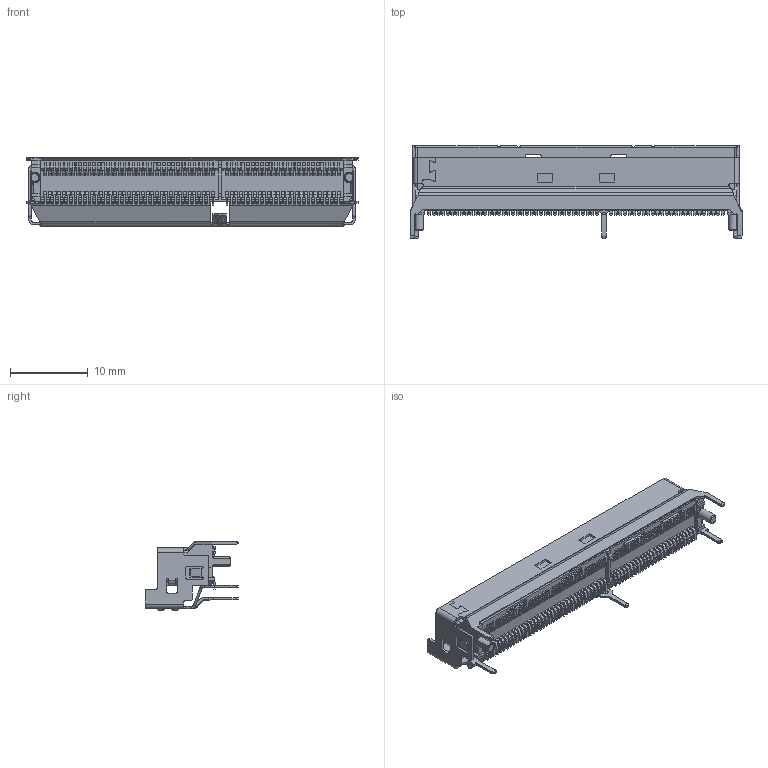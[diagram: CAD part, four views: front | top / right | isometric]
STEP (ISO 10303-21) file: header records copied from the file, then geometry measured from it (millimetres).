
FILE_DESCRIPTION((''),'2;1');
FILE_NAME('02V331X10H0000','2024-05-17T00:24:21',('ZL'),(''),'CREO PARAMETRIC BY PTC INC, 2020053','CREO PARAMETRIC BY PTC INC, 2020053','');
FILE_SCHEMA(('AUTOMOTIVE_DESIGN { 1 0 10303 214 1 1 1 1 }'));
Products named in the file (1): 02V331X10H0000
Bounding box: 42.75 x 11.95 x 8.82 mm (x, y, z)
Volume: 1047.8 mm3; surface area: 4455.5 mm2
Topology: 1 solids, 2 shells, 7589 faces, 22765 edges, 15040 vertices
Faces by surface type: plane 5410, cylinder 1647, extrusion 490, bspline 22, torus 14, cone 6
Entity records: 274267 total; most frequent: CARTESIAN_POINT 53123, ORIENTED_EDGE 45530, DIRECTION 39662, EDGE_CURVE 22765, VECTOR 18831, LINE 18341, VERTEX_POINT 15040, AXIS2_PLACEMENT_3D 10414
